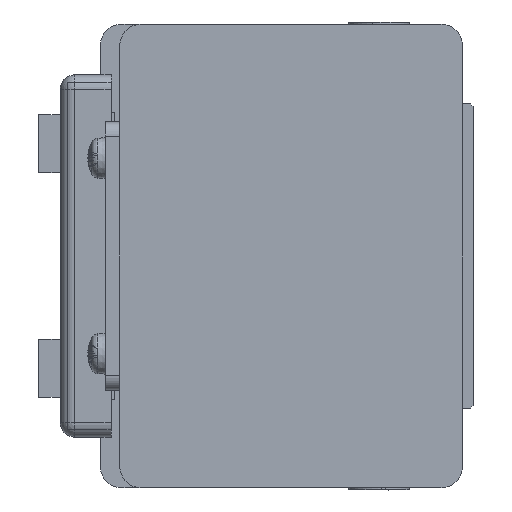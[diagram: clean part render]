
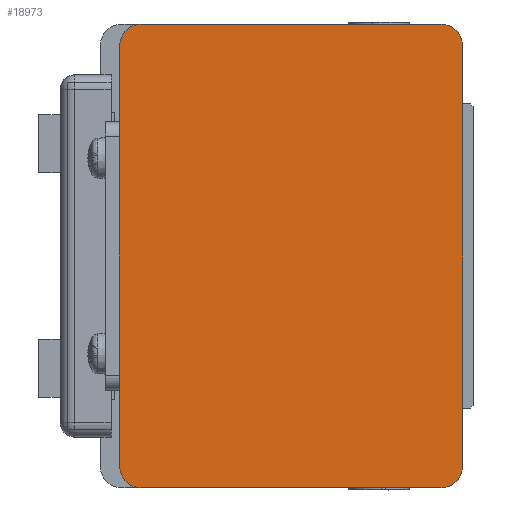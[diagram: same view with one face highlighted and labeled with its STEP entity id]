
A CAD part, left-side view. The second image highlights one B-rep face of the part: STEP entity #18973.
In plain terms, the highlighted planar face has unit normal (-1, 0, 0) as drawn and (0, 0, -1) by its records, which use the part's own axes.
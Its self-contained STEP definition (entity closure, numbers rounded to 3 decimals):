
#779=LINE('',#26803,#2431);
#794=LINE('',#26845,#2446);
#839=LINE('',#26954,#2491);
#861=LINE('',#27023,#2513);
#874=LINE('',#27058,#2526);
#875=LINE('',#27061,#2527);
#876=LINE('',#27062,#2528);
#877=LINE('',#27067,#2529);
#2431=VECTOR('',#21905,19.);
#2446=VECTOR('',#21938,41.3);
#2491=VECTOR('',#22027,41.3);
#2513=VECTOR('',#22087,19.);
#2526=VECTOR('',#22122,0.1);
#2527=VECTOR('',#22125,20.);
#2528=VECTOR('',#22126,0.1);
#2529=VECTOR('',#22131,58.);
#4236=PLANE('',#20211);
#5056=FACE_OUTER_BOUND('',#6172,.T.);
#6172=EDGE_LOOP('',(#12758,#12759,#12760,#12761,#12762,#12763,#12764,#12765,
#12766,#12767,#12768,#12769));
#7420=CIRCLE('',#20212,3.);
#7421=CIRCLE('',#20213,3.);
#7422=CIRCLE('',#20214,3.);
#7423=CIRCLE('',#20215,3.);
#7973=VERTEX_POINT('',#26800);
#7974=VERTEX_POINT('',#26802);
#7991=VERTEX_POINT('',#26842);
#7992=VERTEX_POINT('',#26844);
#8033=VERTEX_POINT('',#26951);
#8034=VERTEX_POINT('',#26953);
#8061=VERTEX_POINT('',#27020);
#8062=VERTEX_POINT('',#27022);
#8073=VERTEX_POINT('',#27056);
#8074=VERTEX_POINT('',#27060);
#8075=VERTEX_POINT('',#27064);
#8076=VERTEX_POINT('',#27066);
#9830=EDGE_CURVE('',#7974,#7973,#779,.T.);
#9851=EDGE_CURVE('',#7992,#7991,#794,.T.);
#9906=EDGE_CURVE('',#8034,#8033,#839,.T.);
#9940=EDGE_CURVE('',#8062,#8061,#861,.T.);
#9959=EDGE_CURVE('',#8073,#7973,#874,.T.);
#9960=EDGE_CURVE('',#8074,#8073,#875,.T.);
#9961=EDGE_CURVE('',#8062,#8074,#876,.T.);
#9962=EDGE_CURVE('',#8061,#8034,#7420,.T.);
#9963=EDGE_CURVE('',#8033,#8075,#7421,.T.);
#9964=EDGE_CURVE('',#8075,#8076,#877,.T.);
#9965=EDGE_CURVE('',#8076,#7992,#7422,.T.);
#9966=EDGE_CURVE('',#7991,#7974,#7423,.T.);
#12758=ORIENTED_EDGE('',*,*,#9830,.T.);
#12759=ORIENTED_EDGE('',*,*,#9959,.F.);
#12760=ORIENTED_EDGE('',*,*,#9960,.F.);
#12761=ORIENTED_EDGE('',*,*,#9961,.F.);
#12762=ORIENTED_EDGE('',*,*,#9940,.T.);
#12763=ORIENTED_EDGE('',*,*,#9962,.T.);
#12764=ORIENTED_EDGE('',*,*,#9906,.T.);
#12765=ORIENTED_EDGE('',*,*,#9963,.T.);
#12766=ORIENTED_EDGE('',*,*,#9964,.T.);
#12767=ORIENTED_EDGE('',*,*,#9965,.T.);
#12768=ORIENTED_EDGE('',*,*,#9851,.T.);
#12769=ORIENTED_EDGE('',*,*,#9966,.T.);
#18973=ADVANCED_FACE('',(#5056),#4236,.F.);
#20211=AXIS2_PLACEMENT_3D('',#27059,#22123,#22124);
#20212=AXIS2_PLACEMENT_3D('',#27063,#22127,#22128);
#20213=AXIS2_PLACEMENT_3D('',#27065,#22129,#22130);
#20214=AXIS2_PLACEMENT_3D('',#27068,#22132,#22133);
#20215=AXIS2_PLACEMENT_3D('',#27069,#22134,#22135);
#21905=DIRECTION('',(1.,0.,0.));
#21938=DIRECTION('',(0.,1.,0.));
#22027=DIRECTION('',(0.,-1.,0.));
#22087=DIRECTION('',(1.,0.,0.));
#22122=DIRECTION('',(0.,-1.,0.));
#22123=DIRECTION('center_axis',(0.,0.,1.));
#22124=DIRECTION('ref_axis',(1.,0.,0.));
#22125=DIRECTION('',(-1.,0.,0.));
#22126=DIRECTION('',(0.,1.,0.));
#22127=DIRECTION('center_axis',(0.,0.,-1.));
#22128=DIRECTION('ref_axis',(-1.,0.,0.));
#22129=DIRECTION('center_axis',(0.,0.,-1.));
#22130=DIRECTION('ref_axis',(0.,1.,0.));
#22131=DIRECTION('',(-1.,0.,0.));
#22132=DIRECTION('center_axis',(0.,0.,-1.));
#22133=DIRECTION('ref_axis',(1.,0.,0.));
#22134=DIRECTION('center_axis',(0.,0.,-1.));
#22135=DIRECTION('ref_axis',(0.,-1.,0.));
#26800=CARTESIAN_POINT('',(22.,48.8,-542.));
#26802=CARTESIAN_POINT('',(3.,48.8,-542.));
#26803=CARTESIAN_POINT('',(3.,48.8,-542.));
#26842=CARTESIAN_POINT('',(0.,45.8,-542.));
#26844=CARTESIAN_POINT('',(0.,4.5,-542.));
#26845=CARTESIAN_POINT('',(0.,4.5,-542.));
#26951=CARTESIAN_POINT('',(64.,4.5,-542.));
#26953=CARTESIAN_POINT('',(64.,45.8,-542.));
#26954=CARTESIAN_POINT('',(64.,45.8,-542.));
#27020=CARTESIAN_POINT('',(61.,48.8,-542.));
#27022=CARTESIAN_POINT('',(42.,48.8,-542.));
#27023=CARTESIAN_POINT('',(42.,48.8,-542.));
#27056=CARTESIAN_POINT('',(22.,48.9,-542.));
#27058=CARTESIAN_POINT('',(22.,48.9,-542.));
#27059=CARTESIAN_POINT('Origin',(32.,25.15,-542.));
#27060=CARTESIAN_POINT('',(42.,48.9,-542.));
#27061=CARTESIAN_POINT('',(42.,48.9,-542.));
#27062=CARTESIAN_POINT('',(42.,48.8,-542.));
#27063=CARTESIAN_POINT('Origin',(61.,45.8,-542.));
#27064=CARTESIAN_POINT('',(61.,1.5,-542.));
#27065=CARTESIAN_POINT('Origin',(61.,4.5,-542.));
#27066=CARTESIAN_POINT('',(3.,1.5,-542.));
#27067=CARTESIAN_POINT('',(61.,1.5,-542.));
#27068=CARTESIAN_POINT('Origin',(3.,4.5,-542.));
#27069=CARTESIAN_POINT('Origin',(3.,45.8,-542.));
